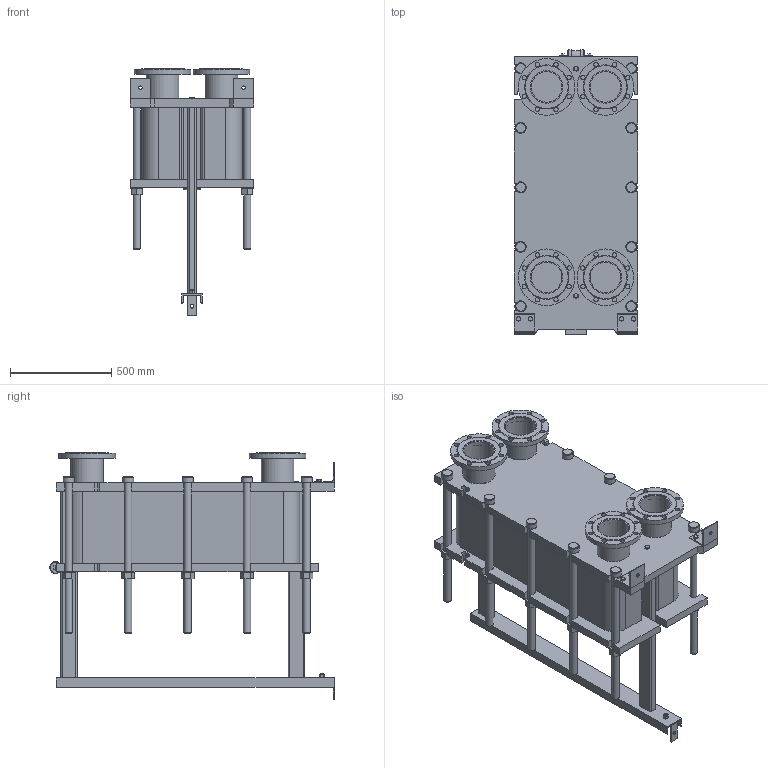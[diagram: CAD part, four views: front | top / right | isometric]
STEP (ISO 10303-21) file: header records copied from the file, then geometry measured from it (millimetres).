
FILE_DESCRIPTION(/* description */ (''),/* implementation_level */ '2;1');
FILE_NAME(/* name */ 'C:\Users\zhuro\Desktop\ENCO\TO\ЭН-041\ЭН-0,5-041-104-1.stp',/* time_stamp */ '2022-06-06T10:58:24+03:00',/* author */ ('zhuro'),/* organization */ (''),/* preprocessor_version */ 'ST-DEVELOPER v18.1',/* originating_system */ 'Autodesk Inventor 2022',/* authorisation */ '');
FILE_SCHEMA (('AUTOMOTIVE_DESIGN { 1 0 10303 214 3 1 1 }'));
Length unit declared in the file: millimetre
Products named in the file (1): ЭН-0,5-041-104-1
Bounding box: 610 x 1406.5 x 1220 mm (x, y, z)
Volume: 282556737.8 mm3; surface area: 9112707.8 mm2
Topology: 52 solids, 52 shells, 711 faces, 1696 edges, 1094 vertices
Faces by surface type: plane 487, cylinder 177, cone 41, torus 6
Full cylindrical faces by diameter (mm): 8 x4, 10 x2, 16 x8, 18 x3, 22 x32, 36 x24, 50 x1, 54 x10, 60 x12, 151 x4, 161 x8, 280 x4
Entity records: 22667 total; most frequent: CARTESIAN_POINT 5230, DIRECTION 3644, ORIENTED_EDGE 3392, EDGE_CURVE 1696, AXIS2_PLACEMENT_3D 1272, LINE 1100, VECTOR 1100, VERTEX_POINT 1094
